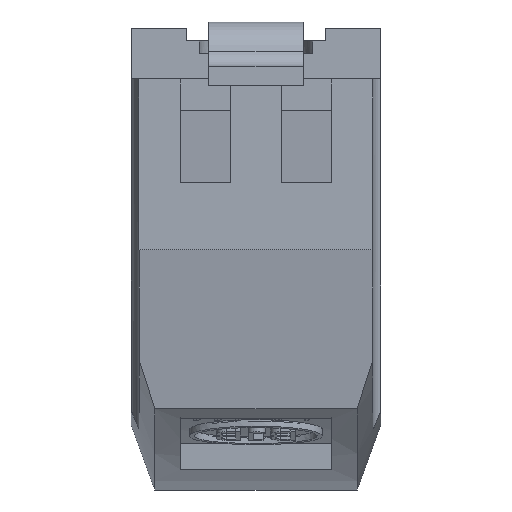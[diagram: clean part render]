
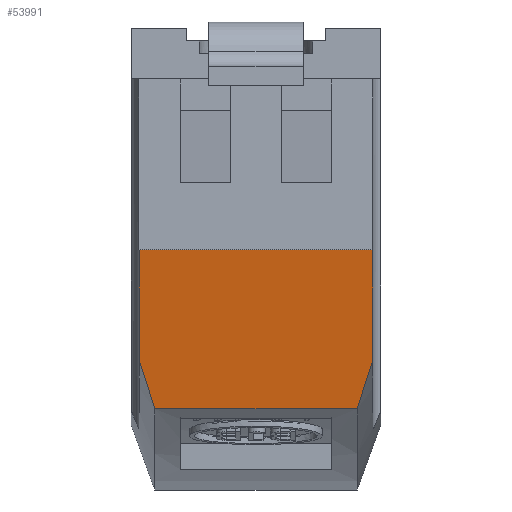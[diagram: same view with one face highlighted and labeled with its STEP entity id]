
A CAD part, front view. The second image highlights one B-rep face of the part: STEP entity #53991.
In plain terms, the highlighted planar face has unit normal (0, -0.99, -0.139).
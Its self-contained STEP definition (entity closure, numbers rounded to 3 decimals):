
#44406=CARTESIAN_POINT(' ',(-1.6,-4.146,-5.118));
#44407=VERTEX_POINT(' ',#44406);
#44421=CARTESIAN_POINT(' ',(-1.6,-4.146,-5.118));
#44426=DIRECTION(' ',(-0.303,-0.133,0.944));
#44431=VECTOR(' ',#44426,1.);
#44436=LINE('',#44421,#44431);
#44441=CARTESIAN_POINT(' ',(-1.85,-4.256,-4.339));
#44442=VERTEX_POINT(' ',#44441);
#44446=EDGE_CURVE(' ',#44407,#44442,#44436,.T.);
#44911=CARTESIAN_POINT(' ',(-1.85,-4.5,-2.6));
#44916=DIRECTION(' ',(0.,0.139,-0.99));
#44921=VECTOR(' ',#44916,1.);
#44926=LINE('',#44911,#44921);
#44931=CARTESIAN_POINT(' ',(-1.85,-4.5,-2.6));
#44932=VERTEX_POINT(' ',#44931);
#44936=EDGE_CURVE(' ',#44932,#44442,#44926,.T.);
#45346=CARTESIAN_POINT(' ',(1.85,-4.5,-2.6));
#45351=DIRECTION(' ',(-1.,0.,0.));
#45356=VECTOR(' ',#45351,1.);
#45361=LINE('',#45346,#45356);
#45366=CARTESIAN_POINT(' ',(1.85,-4.5,-2.6));
#45367=VERTEX_POINT(' ',#45366);
#45371=EDGE_CURVE(' ',#45367,#44932,#45361,.T.);
#46931=CARTESIAN_POINT(' ',(1.85,-4.256,-4.339));
#46932=VERTEX_POINT(' ',#46931);
#46991=CARTESIAN_POINT(' ',(1.85,-4.256,-4.339));
#46996=DIRECTION(' ',(0.,-0.139,0.99));
#47001=VECTOR(' ',#46996,1.);
#47006=LINE('',#46991,#47001);
#47011=EDGE_CURVE(' ',#46932,#45367,#47006,.T.);
#47416=CARTESIAN_POINT(' ',(1.85,-4.256,-4.339));
#47421=DIRECTION(' ',(-0.303,0.133,-0.944));
#47426=VECTOR(' ',#47421,1.);
#47431=LINE('',#47416,#47426);
#47436=CARTESIAN_POINT(' ',(1.6,-4.146,-5.118));
#47437=VERTEX_POINT(' ',#47436);
#47441=EDGE_CURVE(' ',#46932,#47437,#47431,.T.);
#53596=CARTESIAN_POINT(' ',(1.6,-4.146,-5.118));
#53601=DIRECTION(' ',(-1.,0.,0.));
#53606=VECTOR(' ',#53601,1.);
#53611=LINE('',#53596,#53606);
#53616=EDGE_CURVE(' ',#47437,#44407,#53611,.T.);
#53926=DIRECTION(' ',(-0.,-0.99,-0.139));
#53931=CARTESIAN_POINT(' ',(-1.85,-4.146,-5.118));
#53936=DIRECTION(' ',(1.,0.,-0.));
#53941=AXIS2_PLACEMENT_3D(' ',#53931,#53926,#53936);
#53946=PLANE('',#53941);
#53951=ORIENTED_EDGE(' ',*,*,#47011,.T.);
#53956=ORIENTED_EDGE(' ',*,*,#45371,.T.);
#53961=ORIENTED_EDGE(' ',*,*,#44936,.T.);
#53966=ORIENTED_EDGE(' ',*,*,#44446,.F.);
#53971=ORIENTED_EDGE(' ',*,*,#53616,.F.);
#53976=ORIENTED_EDGE(' ',*,*,#47441,.F.);
#53981=EDGE_LOOP(' ',(#53951,#53956,#53961,#53966,#53971,#53976));
#53986=FACE_OUTER_BOUND(' ',#53981,.T.);
#53991=ADVANCED_FACE('',(#53986),#53946,.T.);
